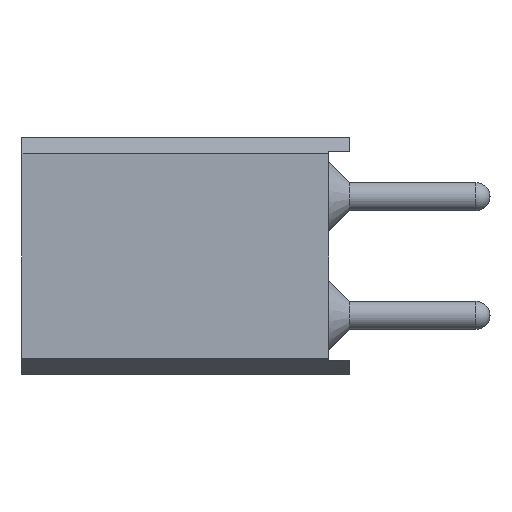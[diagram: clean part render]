
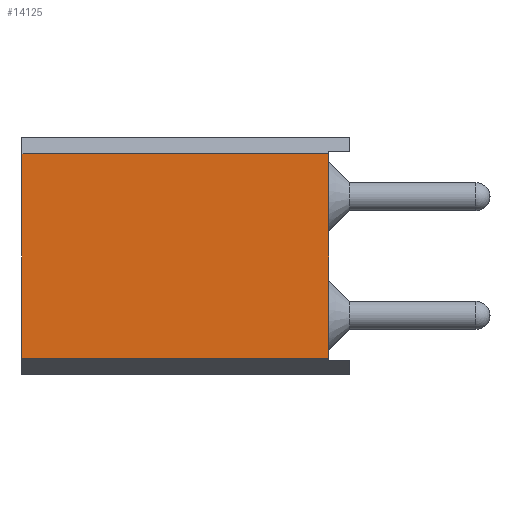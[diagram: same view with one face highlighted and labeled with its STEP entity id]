
A CAD part, left-side view. The second image highlights one B-rep face of the part: STEP entity #14125.
In plain terms, the highlighted planar face has unit normal (-1, 0, 0).
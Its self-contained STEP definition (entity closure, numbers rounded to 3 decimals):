
#345 = CARTESIAN_POINT ( 'NONE',  ( -1.299, -3.05, -3.419 ) ) ;
#1482 = DIRECTION ( 'NONE',  ( 0., 1., 0. ) ) ;
#3714 = CARTESIAN_POINT ( 'NONE',  ( -1.299, -3.5, 0.961 ) ) ;
#4459 = ORIENTED_EDGE ( 'NONE', *, *, #10458, .F. ) ;
#4959 = FACE_OUTER_BOUND ( 'NONE', #6371, .T. ) ;
#5213 = PLANE ( 'NONE',  #24347 ) ;
#5795 = DIRECTION ( 'NONE',  ( 0., 0., -1. ) ) ;
#6371 = EDGE_LOOP ( 'NONE', ( #14925, #6410, #4459, #7136 ) ) ;
#6410 = ORIENTED_EDGE ( 'NONE', *, *, #22916, .T. ) ;
#6714 = CARTESIAN_POINT ( 'NONE',  ( -1.299, -3.5, -3.419 ) ) ;
#7136 = ORIENTED_EDGE ( 'NONE', *, *, #11412, .F. ) ;
#7780 = LINE ( 'NONE', #15868, #11157 ) ;
#8198 = VERTEX_POINT ( 'NONE', #14362 ) ;
#9311 = VECTOR ( 'NONE', #17568, 1000. ) ;
#9615 = LINE ( 'NONE', #25615, #9311 ) ;
#10458 = EDGE_CURVE ( 'NONE', #8198, #22382, #9615, .T. ) ;
#10568 = LINE ( 'NONE', #6714, #11190 ) ;
#11157 = VECTOR ( 'NONE', #5795, 1000. ) ;
#11190 = VECTOR ( 'NONE', #14427, 1000. ) ;
#11412 = EDGE_CURVE ( 'NONE', #14083, #8198, #10568, .T. ) ;
#13040 = DIRECTION ( 'NONE',  ( 1., 0., 0. ) ) ;
#14083 = VERTEX_POINT ( 'NONE', #345 ) ;
#14125 = ADVANCED_FACE ( 'NONE', ( #4959 ), #5213, .F. ) ;
#14362 = CARTESIAN_POINT ( 'NONE',  ( -1.299, 3.5, -3.419 ) ) ;
#14427 = DIRECTION ( 'NONE',  ( 0., 1., 0. ) ) ;
#14925 = ORIENTED_EDGE ( 'NONE', *, *, #23362, .F. ) ;
#15868 = CARTESIAN_POINT ( 'NONE',  ( -1.299, -3.05, -3.469 ) ) ;
#15899 = LINE ( 'NONE', #3714, #22118 ) ;
#17568 = DIRECTION ( 'NONE',  ( 0., 0., 1. ) ) ;
#20699 = CARTESIAN_POINT ( 'NONE',  ( -1.299, 3.5, 0.961 ) ) ;
#21098 = DIRECTION ( 'NONE',  ( 0., 0., 1. ) ) ;
#22118 = VECTOR ( 'NONE', #1482, 1000. ) ;
#22382 = VERTEX_POINT ( 'NONE', #20699 ) ;
#22648 = VERTEX_POINT ( 'NONE', #24374 ) ;
#22916 = EDGE_CURVE ( 'NONE', #22648, #22382, #15899, .T. ) ;
#23362 = EDGE_CURVE ( 'NONE', #22648, #14083, #7780, .T. ) ;
#23591 = CARTESIAN_POINT ( 'NONE',  ( -1.299, 3.5, -1.229 ) ) ;
#24347 = AXIS2_PLACEMENT_3D ( 'NONE', #23591, #13040, #21098 ) ;
#24374 = CARTESIAN_POINT ( 'NONE',  ( -1.299, -3.05, 0.961 ) ) ;
#25615 = CARTESIAN_POINT ( 'NONE',  ( -1.299, 3.5, -1.229 ) ) ;
